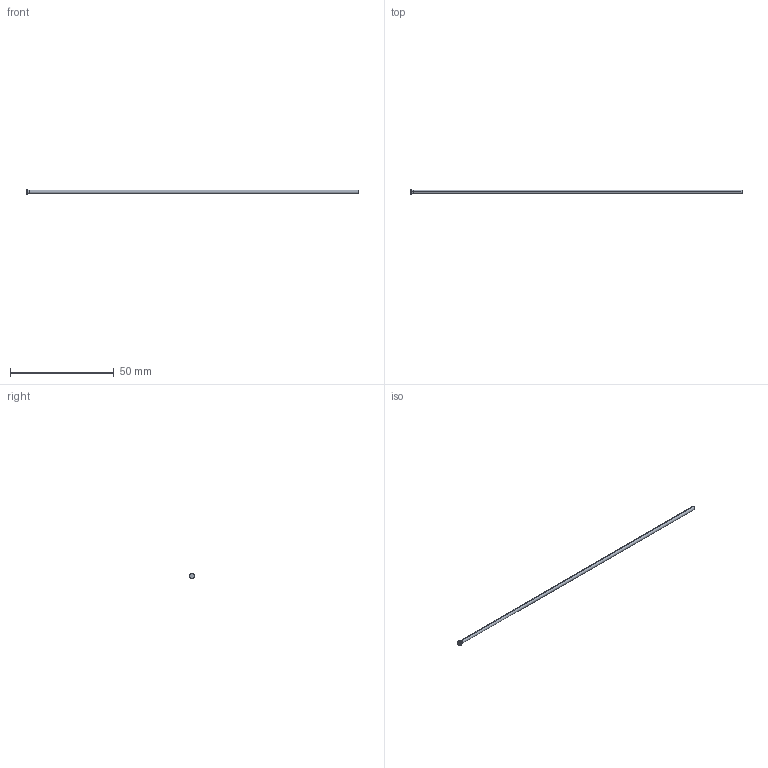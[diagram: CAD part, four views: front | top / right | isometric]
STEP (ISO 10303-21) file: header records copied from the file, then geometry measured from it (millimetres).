
FILE_DESCRIPTION (( 'STEP AP214' ), '1' );
FILE_NAME ('D-1,7x160.STEP', '2020-06-08T09:40:16', ( 'August' ), ( '' ), 'SwSTEP 2.0', 'SolidWorks 2018', '' );
FILE_SCHEMA (( 'AUTOMOTIVE_DESIGN' ));
Length unit declared in the file: millimetre
Products named in the file (1): D-1,7x160
Bounding box: 160 x 2.5 x 2.5 mm (x, y, z)
Volume: 365.4 mm3; surface area: 864.5 mm2
Topology: 1 solids, 1 shells, 10 faces, 18 edges, 10 vertices
Faces by surface type: cylinder 4, torus 2, cone 2, plane 2
Entity records: 280 total; most frequent: DIRECTION 52, CARTESIAN_POINT 39, ORIENTED_EDGE 36, AXIS2_PLACEMENT_3D 23, EDGE_CURVE 18, CIRCLE 12, ADVANCED_FACE 10, FACE_OUTER_BOUND 10
